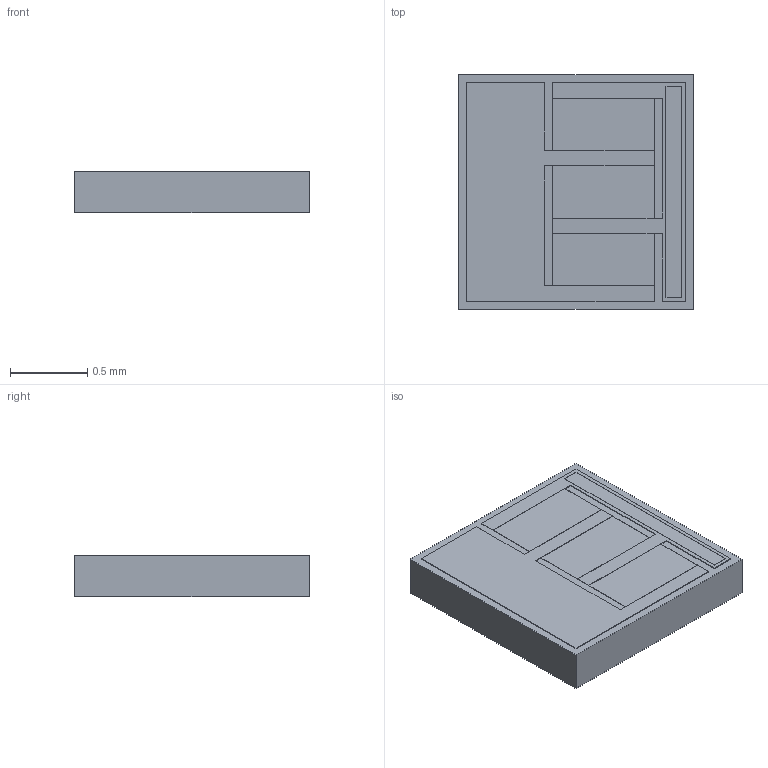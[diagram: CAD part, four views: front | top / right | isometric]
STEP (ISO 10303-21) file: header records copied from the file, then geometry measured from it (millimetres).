
FILE_DESCRIPTION(/* description */ (''),/* implementation_level */ '2;1');
FILE_NAME(/* name */ 'C:\Users\jlima\Desktop\96-0603\96-0603-01A-02A-03A 04-12-18\3D-96-0603\3D-96-0603.stp',/* time_stamp */ '2019-07-19T09:53:12-04:00',/* author */ ('JLima'),/* organization */ (''),/* preprocessor_version */ 'ST-DEVELOPER v17',/* originating_system */ 'Autodesk Inventor 2019',/* authorisation */ '');
FILE_SCHEMA (('AUTOMOTIVE_DESIGN { 1 0 10303 214 3 1 1 }'));
Length unit declared in the file: inch
Products named in the file (1): 3D-96-0603
Bounding box: 1.52 x 1.52 x 0.27 mm (x, y, z)
Volume: 0.6 mm3; surface area: 6.3 mm2
Topology: 1 solids, 1 shells, 38 faces, 102 edges, 68 vertices
Faces by surface type: plane 38
Entity records: 1259 total; most frequent: CARTESIAN_POINT 209, ORIENTED_EDGE 204, DIRECTION 180, LINE 102, VECTOR 102, EDGE_CURVE 102, VERTEX_POINT 68, EDGE_LOOP 40
